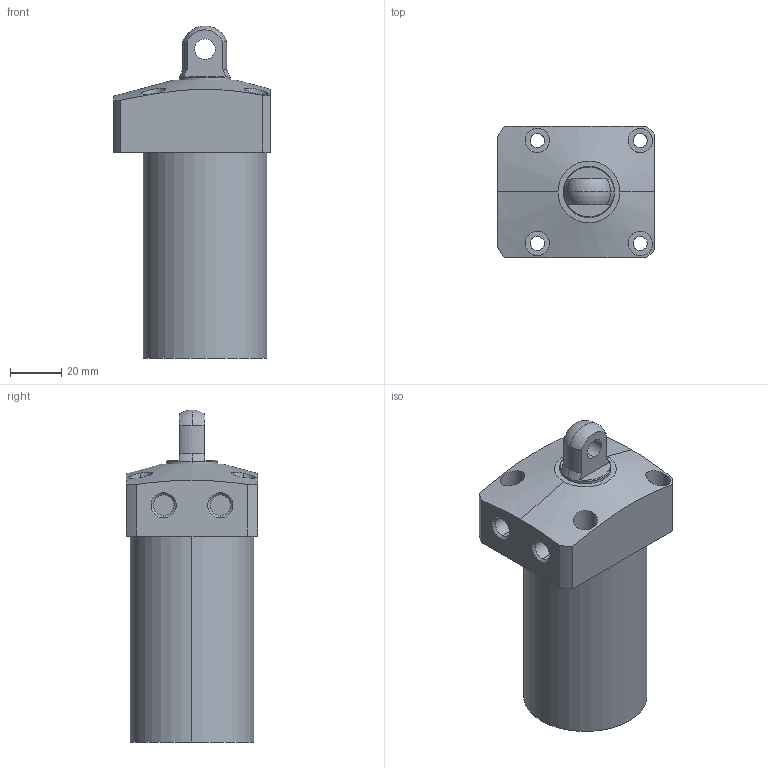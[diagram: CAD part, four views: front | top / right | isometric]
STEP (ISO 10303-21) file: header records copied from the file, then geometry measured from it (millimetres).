
FILE_DESCRIPTION (( 'STEP AP203' ), '1' );
FILE_NAME ('CLL-0480-CP-070.STEP', '2017-05-09T02:55:54', ( '' ), ( '' ), 'SwSTEP 2.0', 'SolidWorks 2015', '' );
FILE_SCHEMA (( 'CONFIG_CONTROL_DESIGN' ));
Length unit declared in the file: millimetre
Products named in the file (1): CLL-0480-CP-070
Bounding box: 61 x 51 x 129 mm (x, y, z)
Volume: 220435 mm3; surface area: 26751.7 mm2
Topology: 1 solids, 1 shells, 67 faces, 157 edges, 103 vertices
Faces by surface type: cylinder 35, plane 22, cone 8, sphere 2
Entity records: 2360 total; most frequent: CARTESIAN_POINT 682, DIRECTION 351, ORIENTED_EDGE 314, EDGE_CURVE 157, AXIS2_PLACEMENT_3D 146, VERTEX_POINT 103, EDGE_LOOP 88, CIRCLE 78
